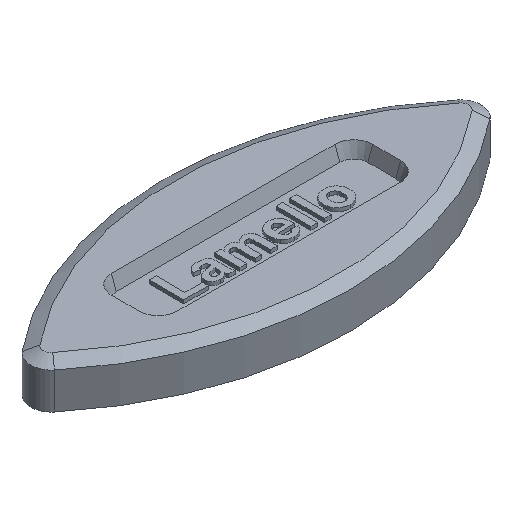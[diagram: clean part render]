
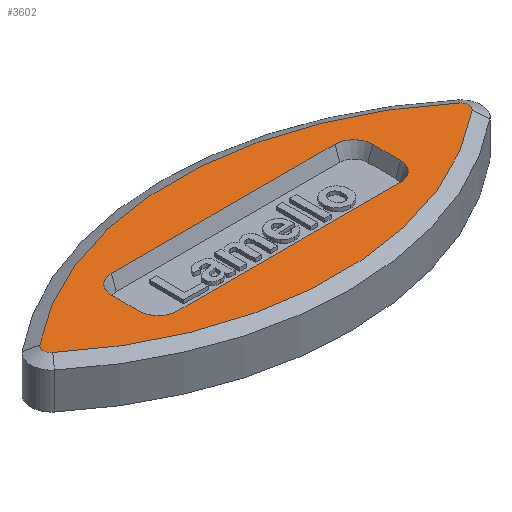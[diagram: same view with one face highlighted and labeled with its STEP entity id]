
A CAD part, isometric view. The second image highlights one B-rep face of the part: STEP entity #3602.
In plain terms, the highlighted planar face has unit normal (0, 0, 1).
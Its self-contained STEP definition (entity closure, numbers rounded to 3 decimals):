
#326=FACE_BOUND('',#1216,.T.);
#349=LINE('',#4616,#676);
#350=LINE('',#4620,#677);
#351=LINE('',#4624,#678);
#352=LINE('',#4628,#679);
#676=VECTOR('',#3993,10.);
#677=VECTOR('',#3996,10.);
#678=VECTOR('',#3999,10.);
#679=VECTOR('',#4002,10.);
#1003=FACE_OUTER_BOUND('',#1215,.T.);
#1215=EDGE_LOOP('',(#2401,#2402,#2403,#2404));
#1216=EDGE_LOOP('',(#2405,#2406,#2407,#2408,#2409,#2410,#2411,#2412));
#1450=CIRCLE('',#3835,47.2);
#1451=CIRCLE('',#3836,1.2);
#1452=CIRCLE('',#3837,47.2);
#1453=CIRCLE('',#3838,1.2);
#1454=CIRCLE('',#3839,2.692);
#1455=CIRCLE('',#3840,2.692);
#1456=CIRCLE('',#3841,2.692);
#1457=CIRCLE('',#3842,2.692);
#1482=VERTEX_POINT('',#4606);
#1483=VERTEX_POINT('',#4607);
#1484=VERTEX_POINT('',#4609);
#1485=VERTEX_POINT('',#4611);
#1486=VERTEX_POINT('',#4614);
#1487=VERTEX_POINT('',#4615);
#1488=VERTEX_POINT('',#4617);
#1489=VERTEX_POINT('',#4619);
#1490=VERTEX_POINT('',#4621);
#1491=VERTEX_POINT('',#4623);
#1492=VERTEX_POINT('',#4625);
#1493=VERTEX_POINT('',#4627);
#1848=EDGE_CURVE('',#1482,#1483,#1450,.T.);
#1849=EDGE_CURVE('',#1484,#1482,#1451,.T.);
#1850=EDGE_CURVE('',#1485,#1484,#1452,.T.);
#1851=EDGE_CURVE('',#1483,#1485,#1453,.T.);
#1852=EDGE_CURVE('',#1486,#1487,#349,.T.);
#1853=EDGE_CURVE('',#1488,#1486,#1454,.T.);
#1854=EDGE_CURVE('',#1489,#1488,#350,.T.);
#1855=EDGE_CURVE('',#1490,#1489,#1455,.T.);
#1856=EDGE_CURVE('',#1491,#1490,#351,.T.);
#1857=EDGE_CURVE('',#1492,#1491,#1456,.T.);
#1858=EDGE_CURVE('',#1493,#1492,#352,.T.);
#1859=EDGE_CURVE('',#1487,#1493,#1457,.T.);
#2401=ORIENTED_EDGE('',*,*,#1848,.F.);
#2402=ORIENTED_EDGE('',*,*,#1849,.F.);
#2403=ORIENTED_EDGE('',*,*,#1850,.F.);
#2404=ORIENTED_EDGE('',*,*,#1851,.F.);
#2405=ORIENTED_EDGE('',*,*,#1852,.F.);
#2406=ORIENTED_EDGE('',*,*,#1853,.F.);
#2407=ORIENTED_EDGE('',*,*,#1854,.F.);
#2408=ORIENTED_EDGE('',*,*,#1855,.F.);
#2409=ORIENTED_EDGE('',*,*,#1856,.F.);
#2410=ORIENTED_EDGE('',*,*,#1857,.F.);
#2411=ORIENTED_EDGE('',*,*,#1858,.F.);
#2412=ORIENTED_EDGE('',*,*,#1859,.F.);
#3507=PLANE('',#3834);
#3602=ADVANCED_FACE('',(#1003,#326),#3507,.F.);
#3834=AXIS2_PLACEMENT_3D('',#4605,#3983,#3984);
#3835=AXIS2_PLACEMENT_3D('',#4608,#3985,#3986);
#3836=AXIS2_PLACEMENT_3D('',#4610,#3987,#3988);
#3837=AXIS2_PLACEMENT_3D('',#4612,#3989,#3990);
#3838=AXIS2_PLACEMENT_3D('',#4613,#3991,#3992);
#3839=AXIS2_PLACEMENT_3D('',#4618,#3994,#3995);
#3840=AXIS2_PLACEMENT_3D('',#4622,#3997,#3998);
#3841=AXIS2_PLACEMENT_3D('',#4626,#4000,#4001);
#3842=AXIS2_PLACEMENT_3D('',#4629,#4003,#4004);
#3983=DIRECTION('center_axis',(0.,0.,-1.));
#3984=DIRECTION('ref_axis',(0.,1.,0.));
#3985=DIRECTION('center_axis',(0.,0.,-1.));
#3986=DIRECTION('ref_axis',(-0.636,-0.772,0.));
#3987=DIRECTION('center_axis',(0.,0.,-1.));
#3988=DIRECTION('ref_axis',(0.636,-0.772,0.));
#3989=DIRECTION('center_axis',(0.,0.,-1.));
#3990=DIRECTION('ref_axis',(0.636,0.772,0.));
#3991=DIRECTION('center_axis',(0.,0.,-1.));
#3992=DIRECTION('ref_axis',(-0.636,0.772,0.));
#3993=DIRECTION('',(0.,-1.,0.));
#3994=DIRECTION('center_axis',(0.,0.,1.));
#3995=DIRECTION('ref_axis',(-1.,0.,0.));
#3996=DIRECTION('',(-1.,0.,0.));
#3997=DIRECTION('center_axis',(0.,0.,1.));
#3998=DIRECTION('ref_axis',(0.,1.,0.));
#3999=DIRECTION('',(0.,1.,0.));
#4000=DIRECTION('center_axis',(0.,0.,1.));
#4001=DIRECTION('ref_axis',(1.,0.,0.));
#4002=DIRECTION('',(1.,0.,0.));
#4003=DIRECTION('center_axis',(0.,0.,1.));
#4004=DIRECTION('ref_axis',(0.,-1.,0.));
#4605=CARTESIAN_POINT('Origin',(0.,-18.87,3.5));
#4606=CARTESIAN_POINT('',(30.016,-0.926,3.5));
#4607=CARTESIAN_POINT('',(-30.016,-0.926,3.5));
#4608=CARTESIAN_POINT('Origin',(0.,35.5,3.5));
#4609=CARTESIAN_POINT('',(30.016,0.926,3.5));
#4610=CARTESIAN_POINT('Origin',(29.253,0.,3.5));
#4611=CARTESIAN_POINT('',(-30.016,0.926,3.5));
#4612=CARTESIAN_POINT('Origin',(0.,-35.5,3.5));
#4613=CARTESIAN_POINT('Origin',(-29.253,0.,3.5));
#4614=CARTESIAN_POINT('',(-18.692,2.,3.5));
#4615=CARTESIAN_POINT('',(-18.692,-2.,3.5));
#4616=CARTESIAN_POINT('',(-18.692,-10.435,3.5));
#4617=CARTESIAN_POINT('',(-16.,4.692,3.5));
#4618=CARTESIAN_POINT('Origin',(-16.,2.,3.5));
#4619=CARTESIAN_POINT('',(16.,4.692,3.5));
#4620=CARTESIAN_POINT('',(-8.,4.692,3.5));
#4621=CARTESIAN_POINT('',(18.692,2.,3.5));
#4622=CARTESIAN_POINT('Origin',(16.,2.,3.5));
#4623=CARTESIAN_POINT('',(18.692,-2.,3.5));
#4624=CARTESIAN_POINT('',(18.692,-8.435,3.5));
#4625=CARTESIAN_POINT('',(16.,-4.692,3.5));
#4626=CARTESIAN_POINT('Origin',(16.,-2.,3.5));
#4627=CARTESIAN_POINT('',(-16.,-4.692,3.5));
#4628=CARTESIAN_POINT('',(0.,-4.692,3.5));
#4629=CARTESIAN_POINT('Origin',(-16.,-2.,3.5));
